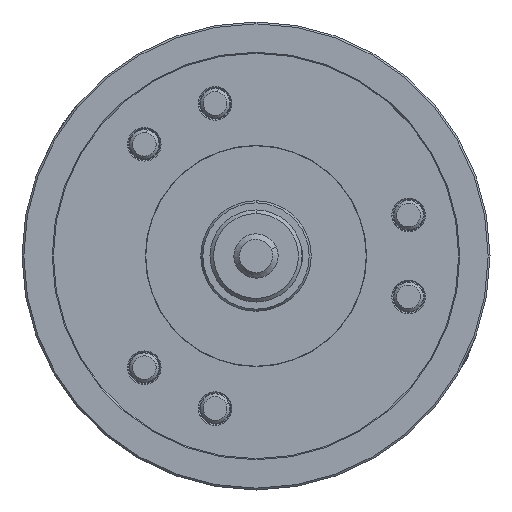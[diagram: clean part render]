
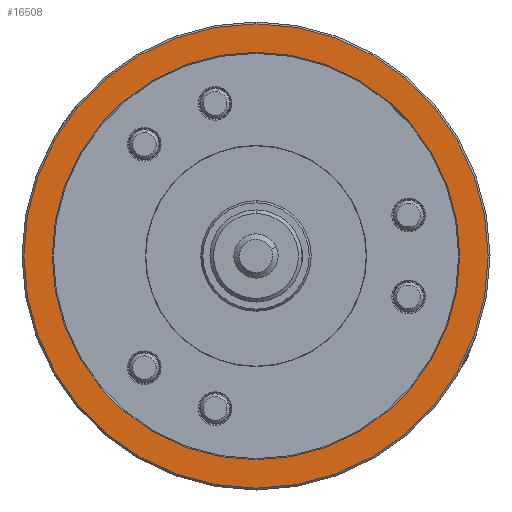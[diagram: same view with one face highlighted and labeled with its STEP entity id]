
A CAD part, left-side view. The second image highlights one B-rep face of the part: STEP entity #16508.
In plain terms, the highlighted planar face has unit normal (-1, 0, 0).
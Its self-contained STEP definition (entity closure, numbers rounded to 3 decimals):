
#112 = ORIENTED_EDGE ( 'NONE', *, *, #14972, .T. ) ;
#440 = ORIENTED_EDGE ( 'NONE', *, *, #26958, .T. ) ;
#839 = FACE_BOUND ( 'NONE', #34654, .T. ) ;
#1352 = CARTESIAN_POINT ( 'NONE',  ( -110., 126., 0. ) ) ;
#1939 = DIRECTION ( 'NONE',  ( 0., 0., -1. ) ) ;
#2202 = DIRECTION ( 'NONE',  ( 0., 0., -1. ) ) ;
#2544 = VERTEX_POINT ( 'NONE', #11639 ) ;
#2603 = AXIS2_PLACEMENT_3D ( 'NONE', #37901, #20385, #2202 ) ;
#4707 = VERTEX_POINT ( 'NONE', #18660 ) ;
#7871 = DIRECTION ( 'NONE',  ( 1., 0., 0. ) ) ;
#8113 = AXIS2_PLACEMENT_3D ( 'NONE', #37682, #20157, #1939 ) ;
#9193 = CIRCLE ( 'NONE', #16094, 126. ) ;
#10021 = CIRCLE ( 'NONE', #2603, 110.6 ) ;
#11639 = CARTESIAN_POINT ( 'NONE',  ( -110., 0., 110.6 ) ) ;
#13094 = VERTEX_POINT ( 'NONE', #26884 ) ;
#14972 = EDGE_CURVE ( 'NONE', #4707, #2544, #10021, .T. ) ;
#15542 = ORIENTED_EDGE ( 'NONE', *, *, #19017, .F. ) ;
#15941 = CARTESIAN_POINT ( 'NONE',  ( -110., 0., 0. ) ) ;
#16094 = AXIS2_PLACEMENT_3D ( 'NONE', #25870, #7871, #28753 ) ;
#16453 = CARTESIAN_POINT ( 'NONE',  ( -110., 0., -126. ) ) ;
#16508 = ADVANCED_FACE ( 'NONE', ( #839, #27021 ), #37205, .T. ) ;
#18660 = CARTESIAN_POINT ( 'NONE',  ( -110., 0., -110.6 ) ) ;
#18971 = DIRECTION ( 'NONE',  ( 0., 0., -1. ) ) ;
#19017 = EDGE_CURVE ( 'NONE', #13094, #21920, #33646, .T. ) ;
#20157 = DIRECTION ( 'NONE',  ( 1., 0., 0. ) ) ;
#20385 = DIRECTION ( 'NONE',  ( 1., 0., 0. ) ) ;
#21920 = VERTEX_POINT ( 'NONE', #16453 ) ;
#23998 = EDGE_CURVE ( 'NONE', #21920, #13094, #9193, .T. ) ;
#24439 = CIRCLE ( 'NONE', #8113, 110.6 ) ;
#25569 = DIRECTION ( 'NONE',  ( -1., 0., 0. ) ) ;
#25693 = DIRECTION ( 'NONE',  ( 0., 0., 1. ) ) ;
#25870 = CARTESIAN_POINT ( 'NONE',  ( -110., 0., 0. ) ) ;
#26061 = ORIENTED_EDGE ( 'NONE', *, *, #23998, .F. ) ;
#26884 = CARTESIAN_POINT ( 'NONE',  ( -110., 0., 126. ) ) ;
#26958 = EDGE_CURVE ( 'NONE', #2544, #4707, #24439, .T. ) ;
#27021 = FACE_OUTER_BOUND ( 'NONE', #35975, .T. ) ;
#28753 = DIRECTION ( 'NONE',  ( 0., 0., -1. ) ) ;
#28909 = AXIS2_PLACEMENT_3D ( 'NONE', #15941, #36503, #18971 ) ;
#33646 = CIRCLE ( 'NONE', #28909, 126. ) ;
#34654 = EDGE_LOOP ( 'NONE', ( #440, #112 ) ) ;
#35755 = AXIS2_PLACEMENT_3D ( 'NONE', #1352, #25569, #25693 ) ;
#35975 = EDGE_LOOP ( 'NONE', ( #26061, #15542 ) ) ;
#36503 = DIRECTION ( 'NONE',  ( 1., 0., 0. ) ) ;
#37205 = PLANE ( 'NONE',  #35755 ) ;
#37682 = CARTESIAN_POINT ( 'NONE',  ( -110., 0., 0. ) ) ;
#37901 = CARTESIAN_POINT ( 'NONE',  ( -110., 0., 0. ) ) ;
